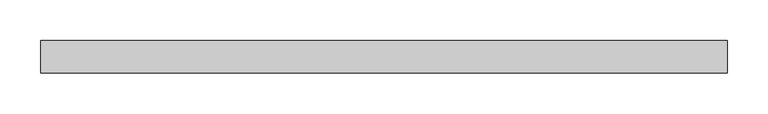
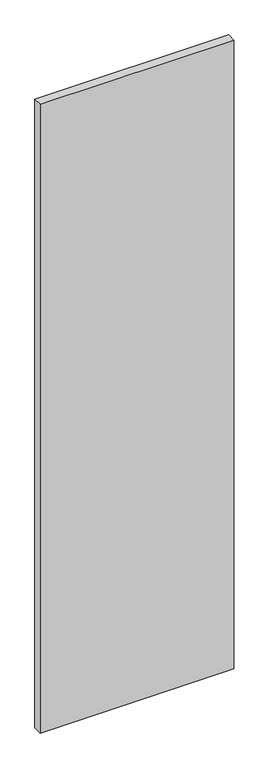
"""IFC4 building model written with IfcOpenShell, lengths in millimetres: plate geometry, Lod 200 Regolare 800 Vertical : Azuro."""

from ifc_helpers import new_model, si_unit, origin, origin_with_axes, place, context, project, spatial, polyline, outline, extrude, source, transform, mapped, element, save


def plate_7a7fec68(model_context):
    return source(origin(), model_context, "Body", "SweptSolid", [
        extrude(outline(polyline([(422.5, -40.0), (-422.5, -40.0), (-422.5, 0.0), (422.5, 0.0), (422.5, -40.0)])), origin_with_axes(), (0.0, 0.0, 1.0), 2900.0),
    ])


if __name__ == "__main__":
    model = new_model("IFC4")
    model_context = context("Model", 3, world=origin())
    ifc_project = project(units=[si_unit("LENGTHUNIT", "METRE", prefix="MILLI")], contexts=[model_context])
    site = spatial("IfcSite", under=ifc_project)
    building = spatial("IfcBuilding", under=site)
    placement = place(None, origin())
    plate_shape = plate_7a7fec68(model_context)
    element("IfcPlate", 1, ObjectType="Lod 200 Regolare 800 Vertical : Azuro", at=placement, inside=building, context=model_context, shape_type="MappedRepresentation", body=[
        mapped(plate_shape, transform((0.0, 0.0, 0.0), x_axis=(1.0, 0.0, 0.0), y_axis=(0.0, 1.0, 0.0), z_axis=(0.0, 0.0, 1.0))),
    ])
    save(model, "model.ifc")
